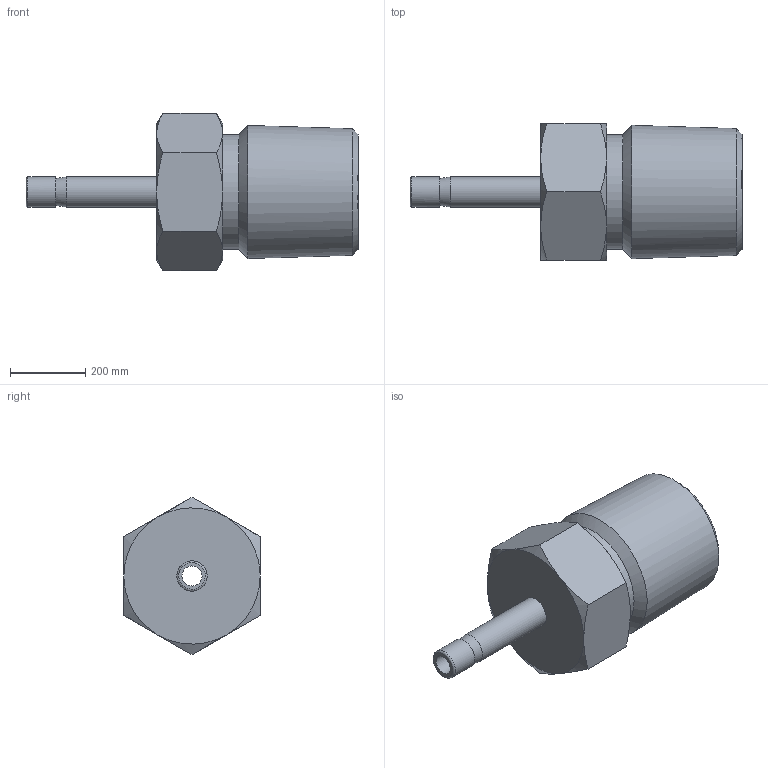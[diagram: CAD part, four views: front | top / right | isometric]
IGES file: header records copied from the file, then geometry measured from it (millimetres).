
Global section: file name: SMA-2-4N; native system: Autodesk Inventor 2016; preprocessor: unknown; author: DESIGNPC2; date: 20151221.090141; units: millimetre
Bounding box: 883.92 x 362.9 x 419.04 mm (x, y, z)
Volume: 52342717.1 mm3; surface area: 1072699.8 mm2
Topology: 1 solids, 1 shells, 33 faces, 81 edges, 53 vertices
Faces by surface type: bspline 33
